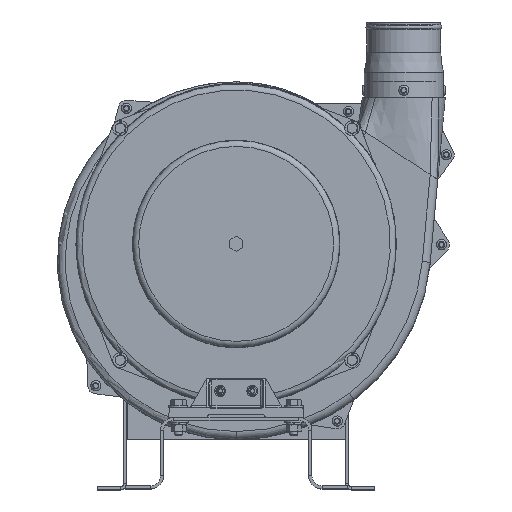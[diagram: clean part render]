
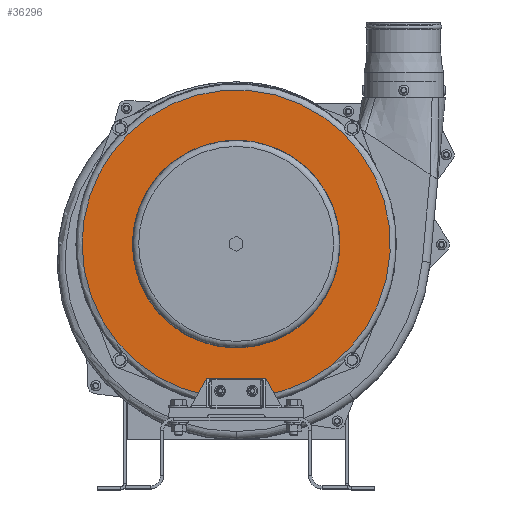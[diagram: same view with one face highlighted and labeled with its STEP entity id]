
A CAD part, top view. The second image highlights one B-rep face of the part: STEP entity #36296.
In plain terms, the highlighted planar face has unit normal (0, 0, 1).
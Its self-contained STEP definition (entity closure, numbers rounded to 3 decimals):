
#6365=PLANE('',#38731);
#7606=FACE_BOUND('',#10540,.T.);
#8242=FACE_OUTER_BOUND('',#10539,.T.);
#10539=EDGE_LOOP('',(#23766));
#10540=EDGE_LOOP('',(#23767));
#13321=CIRCLE('',#38718,15.255);
#13327=CIRCLE('',#38730,4.4);
#14853=VERTEX_POINT('',#52024);
#14859=VERTEX_POINT('',#52042);
#18376=EDGE_CURVE('',#14853,#14853,#13321,.T.);
#18382=EDGE_CURVE('',#14859,#14859,#13327,.T.);
#23766=ORIENTED_EDGE('',*,*,#18376,.F.);
#23767=ORIENTED_EDGE('',*,*,#18382,.T.);
#36296=ADVANCED_FACE('',(#8242,#7606),#6365,.T.);
#38718=AXIS2_PLACEMENT_3D('',#52025,#42688,#42689);
#38730=AXIS2_PLACEMENT_3D('',#52043,#42712,#42713);
#38731=AXIS2_PLACEMENT_3D('',#52044,#42714,#42715);
#42688=DIRECTION('center_axis',(0.,0.,
-1.));
#42689=DIRECTION('ref_axis',(-1.,0.,0.));
#42712=DIRECTION('center_axis',(0.,0.,
-1.));
#42713=DIRECTION('ref_axis',(-1.,0.,0.));
#42714=DIRECTION('center_axis',(0.,0.,
1.));
#42715=DIRECTION('ref_axis',(0.,-1.,0.));
#52024=CARTESIAN_POINT('',(-15.255,0.,58.793));
#52025=CARTESIAN_POINT('Origin',(0.,0.,
58.793));
#52042=CARTESIAN_POINT('',(-4.4,0.,58.793));
#52043=CARTESIAN_POINT('Origin',(0.,0.,
58.793));
#52044=CARTESIAN_POINT('Origin',(-9.828,0.,58.793));
